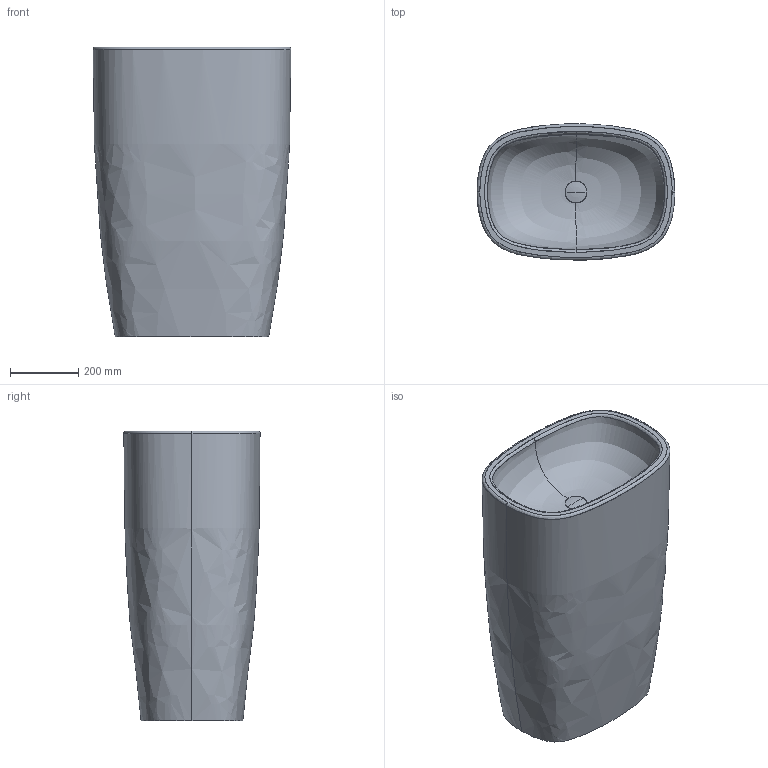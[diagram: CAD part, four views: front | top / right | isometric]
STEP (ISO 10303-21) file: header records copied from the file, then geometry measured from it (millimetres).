
FILE_DESCRIPTION(/* description */ (''),/* implementation_level */ '2;1');
FILE_NAME(/* name */ 'FREEST~1',/* time_stamp */ '2019-12-19T09:56:42+01:00',/* author */ (''),/* organization */ (''),/* preprocessor_version */ 'ST-DEVELOPER v16.5',/* originating_system */ '',/* authorisation */ '');
FILE_SCHEMA (('AUTOMOTIVE_DESIGN'));
Length unit declared in the file: millimetre
Products named in the file (1): Document
Bounding box: 580.06 x 399.65 x 850.16 mm (x, y, z)
Surface area: 1616575.1 mm2 (no closed solid volume)
Topology: 0 solids, 7 shells, 13 faces, 38 edges, 24 vertices
Faces by surface type: bspline 12, plane 1
Entity records: 10691 total; most frequent: CARTESIAN_POINT 10482, ORIENTED_EDGE 46, EDGE_CURVE 34, VERTEX_POINT 24, B_SPLINE_CURVE_WITH_KNOTS 14, EDGE_LOOP 14, ADVANCED_FACE 13, FACE_OUTER_BOUND 13
